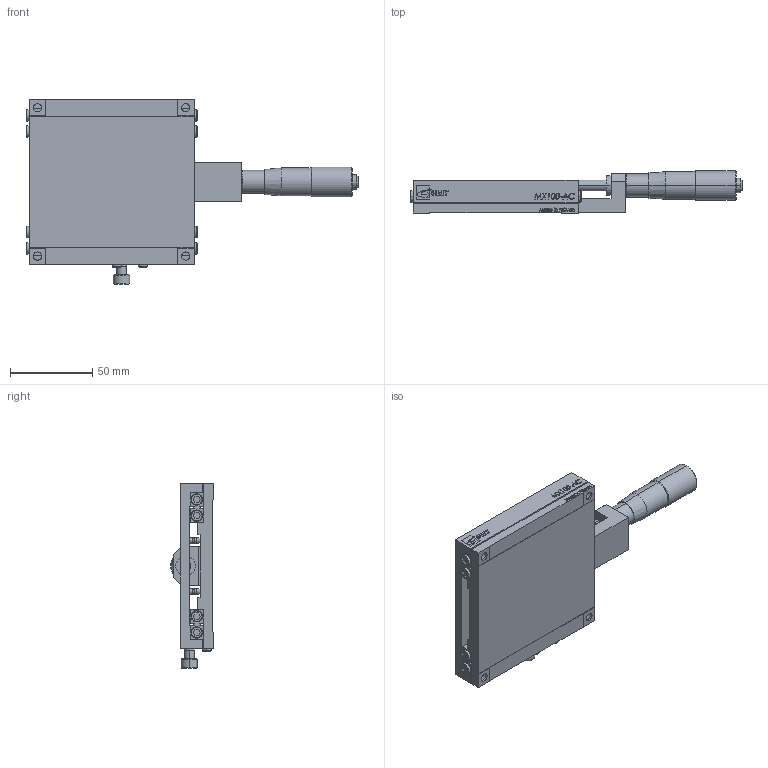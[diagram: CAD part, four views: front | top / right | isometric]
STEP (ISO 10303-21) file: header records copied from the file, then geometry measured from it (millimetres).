
FILE_DESCRIPTION (( 'STEP AP203' ), '1' );
FILE_NAME ('MX100-AC.STEP', '2008-08-02T03:55:43', ( '陳志豪' ), ( '高明鐵企業股份有限公司' ), 'SwSTEP 2.0', 'SolidWorks 2007', '' );
FILE_SCHEMA (( 'CONFIG_CONTROL_DESIGN' ));
Length unit declared in the file: millimetre
Products named in the file (1): MX100-AC
Bounding box: 201.5 x 25.8 x 112.2 mm (x, y, z)
Volume: 186203.2 mm3; surface area: 72575.2 mm2
Topology: 7 solids, 7 shells, 748 faces, 1942 edges, 1272 vertices
Faces by surface type: plane 431, cylinder 176, bspline 89, cone 52
Entity records: 28095 total; most frequent: CARTESIAN_POINT 9890, ORIENTED_EDGE 3868, DIRECTION 3478, EDGE_CURVE 1934, VECTOR 1326, LINE 1326, VERTEX_POINT 1272, AXIS2_PLACEMENT_3D 1076
